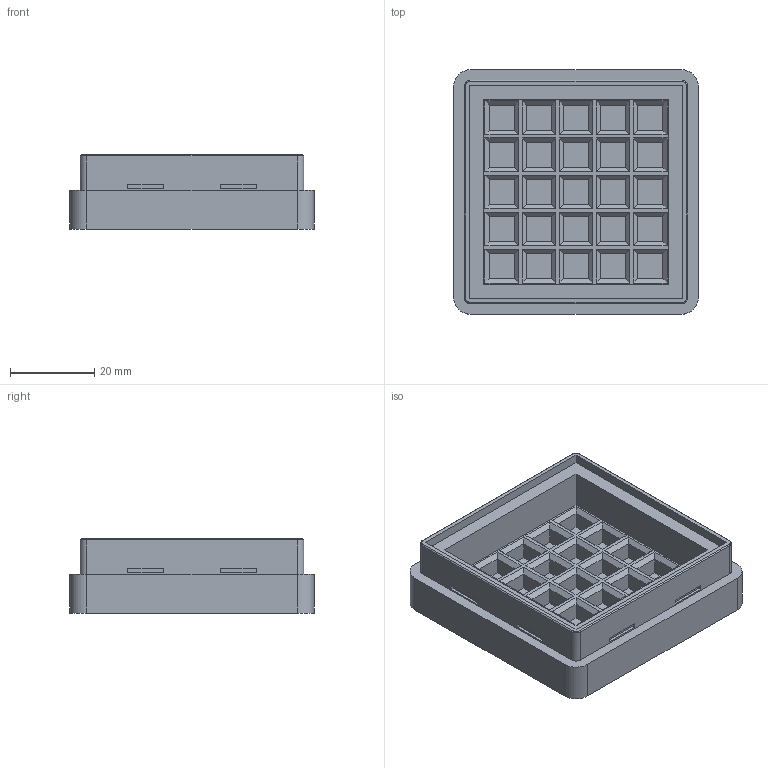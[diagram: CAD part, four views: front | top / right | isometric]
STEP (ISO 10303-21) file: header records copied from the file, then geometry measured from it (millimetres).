
FILE_DESCRIPTION(('FreeCAD Model'),'2;1');
FILE_NAME('Open CASCADE Shape Model','2026-10-10T16:21:16',(''),(''), 'Open CASCADE STEP processor 7.8','FreeCAD','Unknown');
FILE_SCHEMA(('AUTOMOTIVE_DESIGN { 1 0 10303 214 1 1 1 1 }'));
Length unit declared in the file: millimetre
Products named in the file (1): Entropy_Box_V3_Deep_Base
Bounding box: 58 x 58 x 17.6 mm (x, y, z)
Volume: 26456.5 mm3; surface area: 15319.7 mm2
Topology: 1 solids, 1 shells, 427 faces, 984 edges, 620 vertices
Faces by surface type: bspline 427
Entity records: 21984 total; most frequent: CARTESIAN_POINT 8741, B_SPLINE_CURVE_WITH_KNOTS 2916, ORIENTED_EDGE 1968, PCURVE 1968, DEFINITIONAL_REPRESENTATION 1968, EDGE_CURVE 984, SURFACE_CURVE 984, VERTEX_POINT 620
